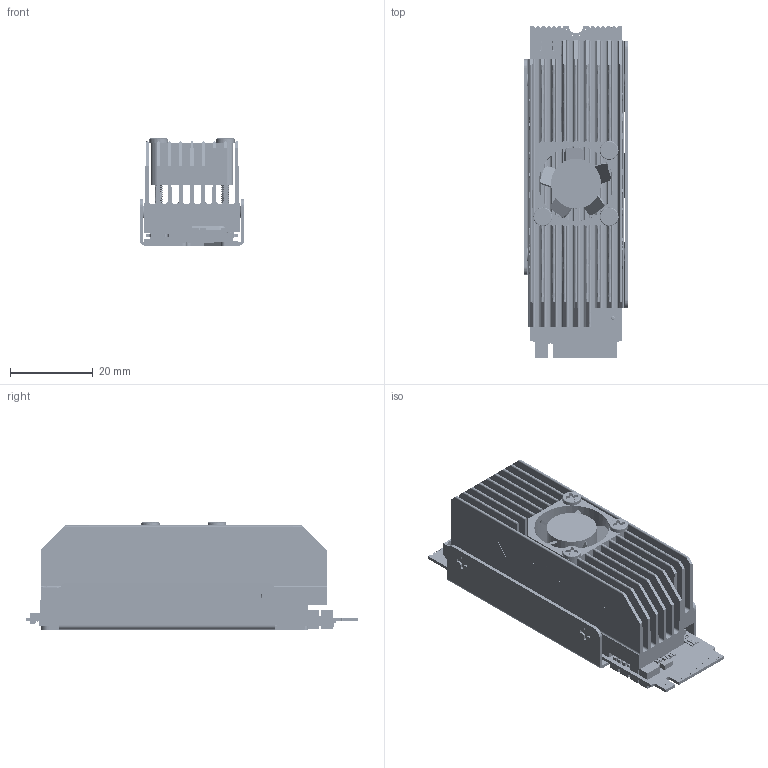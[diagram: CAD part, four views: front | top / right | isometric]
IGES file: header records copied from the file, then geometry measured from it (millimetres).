
Global section: file name: C:\Balaji\CAD\Whole OMEGA CADD\M2_Fan_2280\N2_fan_2280.igs; native system: NX V2212; preprocessor: SIEMENS PLM Software NX2212.8301; date: 20240911.161901; units: millimetre
Bounding box: 25 x 80.02 x 25.8 mm (x, y, z)
Surface area: 42618.5 mm2 (no closed solid volume)
Topology: 0 solids, 0 shells, 9327 faces, 58045 edges, 55469 vertices
Faces by surface type: bspline 9327
